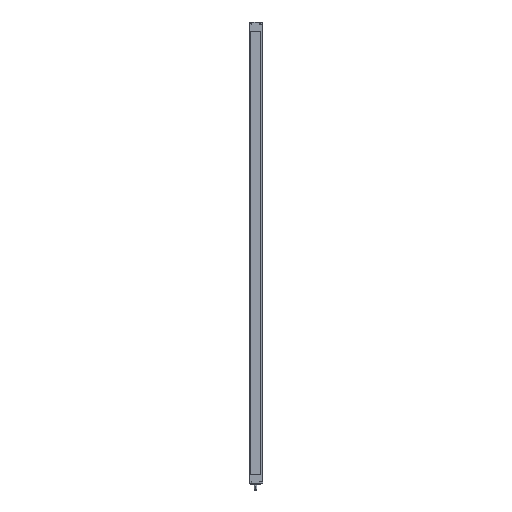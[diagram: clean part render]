
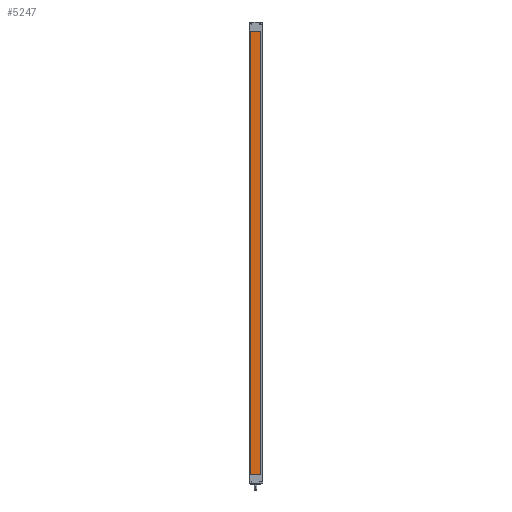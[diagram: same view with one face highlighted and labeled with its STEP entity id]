
A CAD part, left-side view. The second image highlights one B-rep face of the part: STEP entity #5247.
In plain terms, the highlighted planar face has unit normal (-1, 0, 0).
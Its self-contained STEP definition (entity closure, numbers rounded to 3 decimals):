
#286 = VERTEX_POINT ( 'NONE', #2543 ) ;
#291 = EDGE_CURVE ( 'NONE', #323, #286, #2529, .T. ) ;
#323 = VERTEX_POINT ( 'NONE', #2595 ) ;
#2070 = VERTEX_POINT ( 'NONE', #6229 ) ;
#2481 = EDGE_CURVE ( 'NONE', #4965, #2070, #6218, .T. ) ;
#2526 = DIRECTION ( 'NONE',  ( 0., -1., 0. ) ) ;
#2527 = VECTOR ( 'NONE', #2526, 1000. ) ;
#2528 = CARTESIAN_POINT ( 'NONE',  ( -75., -36., 2180. ) ) ;
#2529 = LINE ( 'NONE', #2528, #2527 ) ;
#2543 = CARTESIAN_POINT ( 'NONE',  ( -75., -26.9, 2180. ) ) ;
#2595 = CARTESIAN_POINT ( 'NONE',  ( -75., 23.2, 2180. ) ) ;
#2921 = ORIENTED_EDGE ( 'NONE', *, *, #5237, .T. ) ;
#4965 = VERTEX_POINT ( 'NONE', #6978 ) ;
#5115 = ORIENTED_EDGE ( 'NONE', *, *, #291, .F. ) ;
#5116 = ORIENTED_EDGE ( 'NONE', *, *, #5174, .F. ) ;
#5174 = EDGE_CURVE ( 'NONE', #286, #2070, #7349, .T. ) ;
#5225 = EDGE_LOOP ( 'NONE', ( #5116, #5115, #2921, #5296 ) ) ;
#5237 = EDGE_CURVE ( 'NONE', #323, #4965, #7390, .T. ) ;
#5247 = ADVANCED_FACE ( 'NONE', ( #7447 ), #7431, .F. ) ;
#5296 = ORIENTED_EDGE ( 'NONE', *, *, #2481, .T. ) ;
#6169 = CARTESIAN_POINT ( 'NONE',  ( -75., -36., 0. ) ) ;
#6209 = DIRECTION ( 'NONE',  ( 0., -1., 0. ) ) ;
#6218 = LINE ( 'NONE', #6169, #6270 ) ;
#6229 = CARTESIAN_POINT ( 'NONE',  ( -75., -26.9, 0. ) ) ;
#6270 = VECTOR ( 'NONE', #6209, 1000. ) ;
#6978 = CARTESIAN_POINT ( 'NONE',  ( -75., 23.2, 0. ) ) ;
#7343 = DIRECTION ( 'NONE',  ( 0., 0., -1. ) ) ;
#7344 = VECTOR ( 'NONE', #7343, 1000. ) ;
#7348 = CARTESIAN_POINT ( 'NONE',  ( -75., -26.9, 2180. ) ) ;
#7349 = LINE ( 'NONE', #7348, #7344 ) ;
#7390 = LINE ( 'NONE', #7435, #7434 ) ;
#7422 = AXIS2_PLACEMENT_3D ( 'NONE', #7475, #7474, #7473 ) ;
#7431 = PLANE ( 'NONE',  #7422 ) ;
#7433 = DIRECTION ( 'NONE',  ( 0., 0., -1. ) ) ;
#7434 = VECTOR ( 'NONE', #7433, 1000. ) ;
#7435 = CARTESIAN_POINT ( 'NONE',  ( -75., 23.2, 2180. ) ) ;
#7447 = FACE_OUTER_BOUND ( 'NONE', #5225, .T. ) ;
#7473 = DIRECTION ( 'NONE',  ( 0., 0., -1. ) ) ;
#7474 = DIRECTION ( 'NONE',  ( 1., 0., 0. ) ) ;
#7475 = CARTESIAN_POINT ( 'NONE',  ( -75., -36., 2180. ) ) ;
